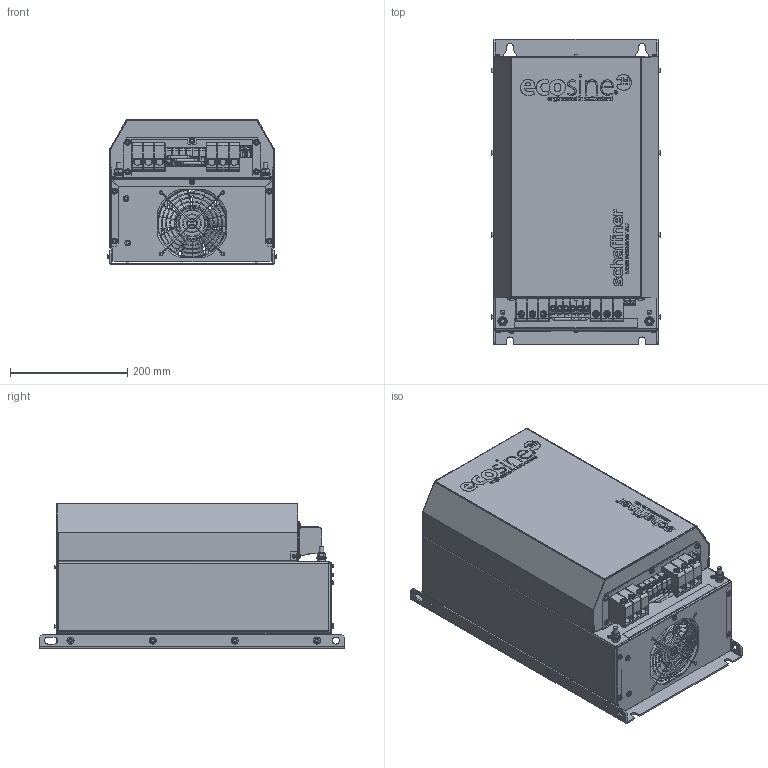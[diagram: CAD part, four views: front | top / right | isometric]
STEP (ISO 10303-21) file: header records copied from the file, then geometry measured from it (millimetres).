
FILE_DESCRIPTION(/* description */ (''),/* implementation_level */ '2;1');
FILE_NAME(/* name */ 'C:\Users\Erika.Jenzer\OneDrive - Schaffner EMV AG\Desktop\Plutus Customer STEP\CUSTOMER IP20 FS C.stp',/* time_stamp */ '2023-05-12T08:57:48+02:00',/* author */ ('erika.jenzer'),/* organization */ (''),/* preprocessor_version */ 'ST-DEVELOPER v18.1',/* originating_system */ 'Autodesk Inventor 2020',/* authorisation */ '');
FILE_SCHEMA (('AUTOMOTIVE_DESIGN { 1 0 10303 214 3 1 1 }'));
Products named in the file (1): CUSTOMER IP20 FS C
Bounding box: 287.14 x 520 x 248.05 mm (x, y, z)
Volume: 1468818 mm3; surface area: 1459531.9 mm2
Topology: 13 solids, 14 shells, 4708 faces, 12096 edges, 7510 vertices
Faces by surface type: plane 2480, cylinder 1047, bspline 499, cone 307, sphere 192, torus 183
Full cylindrical faces by diameter (mm): 1.6 x4, 2.6 x4, 2.8 x6, 3.2 x4, 3.3 x4, 3.5 x8, 3.9 x4, 3.92 x4, 4 x38, 4.3 x8, 4.8 x9, 5 x16, 5.1 x6, 5.5 x17, 5.8 x2, 6 x18, 6.5 x2, 7 x16, 7.323 x2, 7.9 x2, 8 x6, 8.4 x2, 8.7 x6, 9.9 x2, 10 x21, 10.5 x2, 11.4 x2, 11.6 x6, 12 x10, 12.65 x2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
Entity records: 184220 total; most frequent: CARTESIAN_POINT 68488, ORIENTED_EDGE 23896, DIRECTION 22320, EDGE_CURVE 11948, AXIS2_PLACEMENT_3D 7599, VERTEX_POINT 7534, LINE 7122, VECTOR 7122
